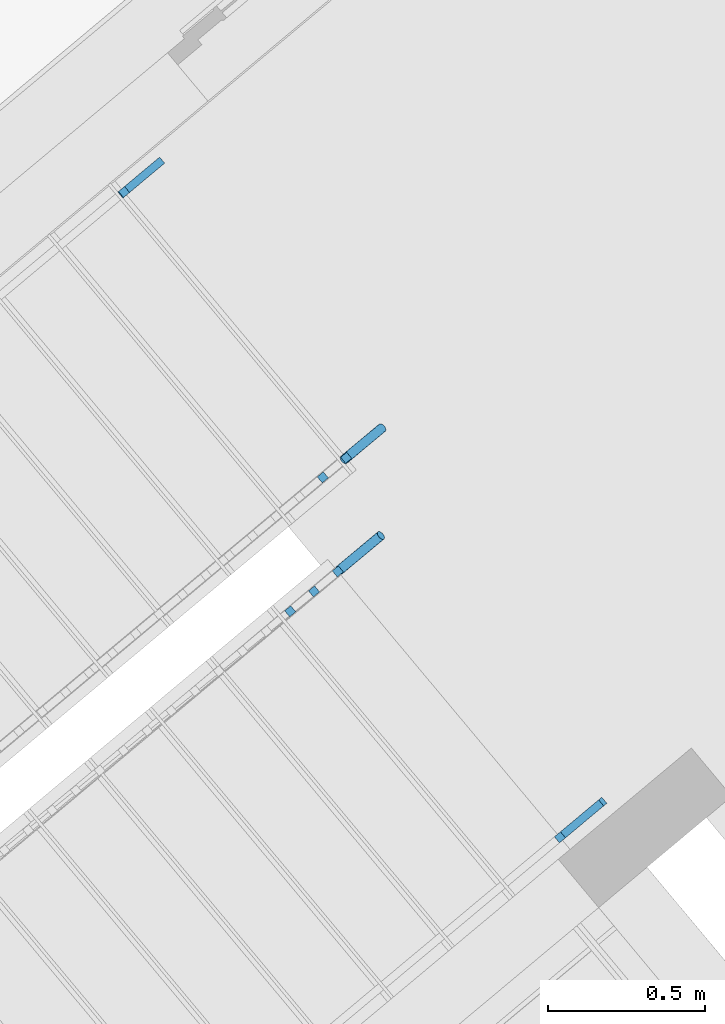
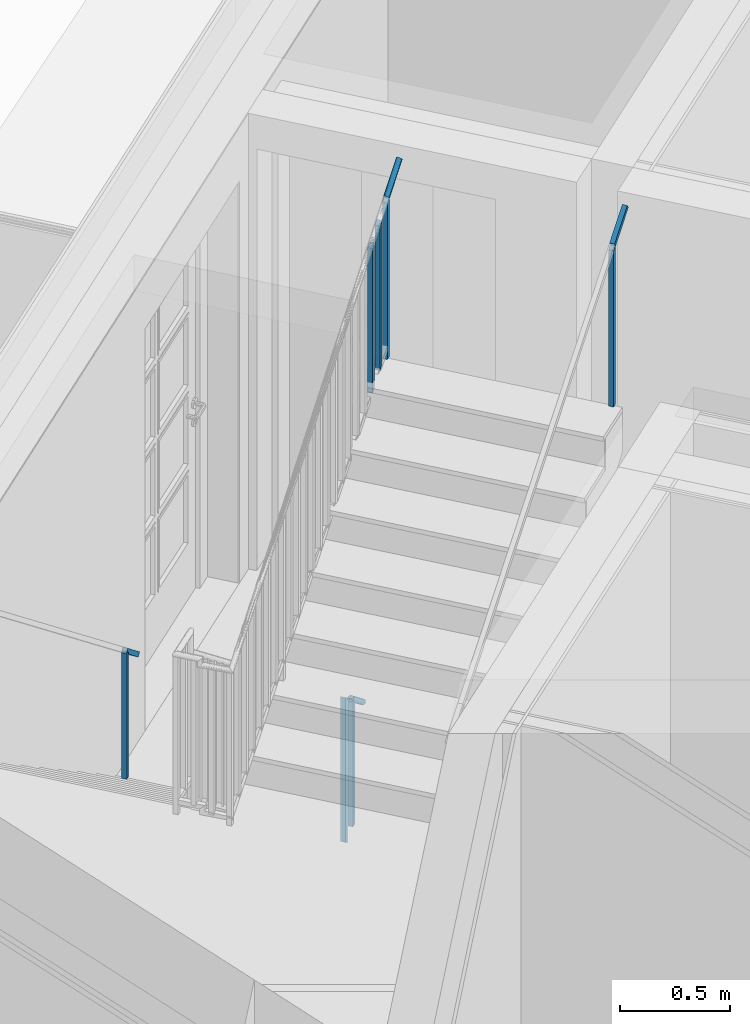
# One storey, part 56 of 67: 11 building element parts, 3 elements without a shape of their own.
"""IFC4 building model written with IfcOpenShell, lengths in metres."""

from ifc_helpers import new_model, entity, si_unit, converted_unit, derived_unit, direction, frame, origin_with_axes, place, context, subcontext, project, spatial, polygons, material, type_object, element, aggregate, save


model = new_model("IFC4")

# Units and contexts
model_context = context("Model", 3, precision=1e-05, world=origin_with_axes(), true_north=direction((0.0, 1.0)))
body_context = subcontext(model_context, "Body", "Model", "MODEL_VIEW")
ifc_project = project(units=[si_unit("LENGTHUNIT", "METRE"), si_unit("AREAUNIT", "SQUARE_METRE"), si_unit("VOLUMEUNIT", "CUBIC_METRE"), converted_unit("PLANEANGLEUNIT", "DEGREE", entity("IfcPlaneAngleMeasure", 0.0174532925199), si_unit("PLANEANGLEUNIT", "RADIAN"), dimensions=[0, 0, 0, 0, 0, 0, 0]), converted_unit("TIMEUNIT", "Year", entity("IfcTimeMeasure", 31556926.0), si_unit("TIMEUNIT", "SECOND"), dimensions=[0, 0, 1, 0, 0, 0, 0]), si_unit("MASSUNIT", "GRAM", prefix="KILO"), si_unit("THERMODYNAMICTEMPERATUREUNIT", "DEGREE_CELSIUS"), si_unit("LUMINOUSINTENSITYUNIT", "LUMEN"), si_unit("ENERGYUNIT", "JOULE", prefix="MEGA"), derived_unit("THERMALCONDUCTANCEUNIT", [(si_unit("POWERUNIT", "WATT"), 1), (si_unit("LENGTHUNIT", "METRE"), -1), (si_unit("THERMODYNAMICTEMPERATUREUNIT", "KELVIN"), -1)]), derived_unit("SPECIFICHEATCAPACITYUNIT", [(si_unit("ENERGYUNIT", "JOULE"), 1), (si_unit("MASSUNIT", "GRAM", prefix="KILO"), -1), (si_unit("THERMODYNAMICTEMPERATUREUNIT", "KELVIN"), -1)]), derived_unit("MASSDENSITYUNIT", [(si_unit("MASSUNIT", "GRAM", prefix="KILO"), 1), (si_unit("VOLUMEUNIT", "CUBIC_METRE"), -1)])], contexts=[model_context])

# Site, building, storey
site_placement = place(None, frame((-0.00153261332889, -0.00661245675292, 0.0), z_axis=(0.0, 0.0, 1.0), x_axis=(1.0, 0.0, 0.0)))
site = spatial("IfcSite", under=ifc_project, at=site_placement, Name="Site", CompositionType="ELEMENT")
building_placement = place(site_placement, origin_with_axes())
building = spatial("IfcBuilding", under=site, at=building_placement, Name="Building", CompositionType="ELEMENT")
storey_placement = place(building_placement, frame((0.0, 0.0, -0.22), z_axis=(0.0, 0.0, 1.0), x_axis=(1.0, 0.0, 0.0)))
storey = spatial("IfcBuildingStorey", under=building, at=storey_placement, Name="EG", CompositionType="ELEMENT", Elevation=-0.22)

# Railing, building element parts
railing_type = type_object("IfcRailingType", Name="Geländerart", PredefinedType="NOTDEFINED")
railing_1_placement = place(storey_placement, frame((-0.398547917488, 23.8355657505, 0.05), z_axis=(0.0, 0.0, 1.0), x_axis=(1.0, 0.0, 0.0)))
railing_1 = element("IfcRailing", 1, at=railing_1_placement, inside=storey, type_object=railing_type, Name="Geländer - 001", PredefinedType="NOTDEFINED")
ifc_material = material(Name="BEKLEIDUNG")
building_element_part_1_placement = place(railing_1_placement, origin_with_axes())
building_element_part_1 = element("IfcBuildingElementPart", 2, at=building_element_part_1_placement, material=ifc_material, Name="BEKLEIDUNG", PredefinedType="NOTDEFINED", context=body_context, shape_type="Tessellation", body=[
    polygons([(-0.0496656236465, 0.0399477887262, 0.177058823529), (-0.0336363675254, 0.0207628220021, 0.177058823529), (-0.0336363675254, 0.0207628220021, 0.889746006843), (-0.0496656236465, 0.0399477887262, 0.889746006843), (-0.0304806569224, 0.0559770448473, 0.177058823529), (-0.0144514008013, 0.0367920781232, 0.177058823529), (-0.0144514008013, 0.0367920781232, 0.870253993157), (-0.0304806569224, 0.0559770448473, 0.870253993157)], [[[1, 2, 3, 4]], [[1, 5, 6, 2]], [[2, 6, 7, 3]], [[4, 3, 7, 8]], [[5, 1, 4, 8]], [[6, 5, 8, 7]]], closed=True),
])
building_element_part_2_placement = place(railing_1_placement, origin_with_axes())
building_element_part_2 = element("IfcBuildingElementPart", 3, at=building_element_part_2_placement, material=ifc_material, Name="BEKLEIDUNG", PredefinedType="NOTDEFINED", context=body_context, shape_type="Tessellation", body=[
    polygons([(-0.0487538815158, 0.0439673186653, 0.88817063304), (-0.0473787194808, 0.0448193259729, 0.890224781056), (0.073659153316, 0.145947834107, 0.767249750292), (0.0722839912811, 0.1450958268, 0.765195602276), (-0.0498368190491, 0.0427655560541, 0.886116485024), (-0.0505946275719, 0.0412505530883, 0.884124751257), (-0.0510042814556, 0.0394683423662, 0.88225594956), (-0.0510533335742, 0.0374730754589, 0.880566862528), (-0.050740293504, 0.0353253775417, 0.879108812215), (-0.0500746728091, 0.0330905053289, 0.877926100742), (-0.0490766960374, 0.030836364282, 0.877054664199), (-0.0477766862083, 0.0286314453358, 0.876520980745), (-0.0462141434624, 0.026542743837, 0.87634126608), (-0.0444365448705, 0.0246337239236, 0.876520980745), (-0.0424979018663, 0.0229623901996, 0.877054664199), (-0.0404571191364, 0.0215795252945, 0.877926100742), (-0.0383762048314, 0.0205271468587, 0.879108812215), (-0.0363183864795, 0.0198372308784, 0.880566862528), (-0.03434618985, 0.0195307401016, 0.88225594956), (-0.0325195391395, 0.0196169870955, 0.884124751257), (-0.0308939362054, 0.0200933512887, 0.886116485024), (-0.0295187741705, 0.0209453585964, 0.88817063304), (-0.0284358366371, 0.0221471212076, 0.890224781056), (-0.0276780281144, 0.0236621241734, 0.892216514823), (-0.0272683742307, 0.0254443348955, 0.89408531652), (-0.0272193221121, 0.0274396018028, 0.895774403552), (-0.0275323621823, 0.02958729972, 0.897232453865), (-0.0281979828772, 0.0318221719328, 0.898415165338), (-0.0291959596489, 0.0340763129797, 0.899286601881), (-0.030495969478, 0.0362812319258, 0.899820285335), (-0.0320585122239, 0.0383699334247, 0.9), (-0.0338361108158, 0.0402789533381, 0.899820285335), (-0.03577475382, 0.0419502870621, 0.899286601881), (-0.0378155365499, 0.0433331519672, 0.898415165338), (-0.0398964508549, 0.044385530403, 0.897232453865), (-0.0419542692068, 0.0450754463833, 0.895774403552), (-0.0439264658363, 0.04538193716, 0.89408531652), (-0.0457531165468, 0.0452956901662, 0.892216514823), (0.0752847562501, 0.146424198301, 0.76924148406), (0.0771114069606, 0.146510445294, 0.771110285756), (0.0790836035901, 0.146203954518, 0.772799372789), (0.081141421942, 0.145514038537, 0.774257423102), (0.083222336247, 0.144461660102, 0.775440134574), (0.0852631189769, 0.143078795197, 0.776311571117), (0.0872017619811, 0.141407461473, 0.776845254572), (0.088979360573, 0.139498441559, 0.777024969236), (0.0905419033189, 0.13740974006, 0.776845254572), (0.091841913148, 0.135204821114, 0.776311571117), (0.0928398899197, 0.132950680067, 0.775440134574), (0.0935055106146, 0.130715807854, 0.774257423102), (0.0938185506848, 0.128568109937, 0.772799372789), (0.0937694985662, 0.12657284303, 0.771110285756), (0.0933598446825, 0.124790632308, 0.76924148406), (0.0926020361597, 0.123275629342, 0.767249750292), (0.0915190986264, 0.122073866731, 0.765195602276), (0.0901439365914, 0.121221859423, 0.763141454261), (0.0885183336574, 0.12074549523, 0.761149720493), (0.0866916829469, 0.120659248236, 0.759280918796), (0.0847194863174, 0.120965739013, 0.757591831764), (0.0826616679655, 0.121655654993, 0.756133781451), (0.0805807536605, 0.122708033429, 0.754951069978), (0.0785399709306, 0.124090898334, 0.754079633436), (0.0766013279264, 0.125762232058, 0.753545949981), (0.0748237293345, 0.127671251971, 0.753366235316), (0.0732611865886, 0.12975995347, 0.753545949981), (0.0719611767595, 0.131964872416, 0.754079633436), (0.0709631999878, 0.134219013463, 0.754951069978), (0.0702975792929, 0.136453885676, 0.756133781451), (0.0699845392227, 0.138601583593, 0.757591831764), (0.0700335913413, 0.140596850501, 0.759280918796), (0.070443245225, 0.142379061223, 0.761149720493), (0.0712010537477, 0.143894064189, 0.763141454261)], [[[1, 2, 3, 4]], [[1, 5, 6, 7, 8, 9, 10, 11, 12, 13, 14, 15, 16, 17, 18, 19, 20, 21, 22, 23, 24, 25, 26, 27, 28, 29, 30, 31, 32, 33, 34, 35, 36, 37, 38, 2]], [[2, 38, 39, 3]], [[4, 3, 39, 40, 41, 42, 43, 44, 45, 46, 47, 48, 49, 50, 51, 52, 53, 54, 55, 56, 57, 58, 59, 60, 61, 62, 63, 64, 65, 66, 67, 68, 69, 70, 71, 72]], [[5, 1, 4, 72]], [[6, 5, 72, 71]], [[7, 6, 71, 70]], [[8, 7, 70, 69]], [[9, 8, 69, 68]], [[10, 9, 68, 67]], [[11, 10, 67, 66]], [[12, 11, 66, 65]], [[13, 12, 65, 64]], [[14, 13, 64, 63]], [[15, 14, 63, 62]], [[16, 15, 62, 61]], [[17, 16, 61, 60]], [[18, 17, 60, 59]], [[19, 18, 59, 58]], [[20, 19, 58, 57]], [[21, 20, 57, 56]], [[22, 21, 56, 55]], [[23, 22, 55, 54]], [[24, 23, 54, 53]], [[25, 24, 53, 52]], [[26, 25, 52, 51]], [[27, 26, 51, 50]], [[28, 27, 50, 49]], [[29, 28, 49, 48]], [[30, 29, 48, 47]], [[31, 30, 47, 46]], [[32, 31, 46, 45]], [[33, 32, 45, 44]], [[34, 33, 44, 43]], [[35, 34, 43, 42]], [[36, 35, 42, 41]], [[37, 36, 41, 40]], [[38, 37, 40, 39]]], closed=True),
])
building_element_part_3_placement = place(railing_1_placement, origin_with_axes())
building_element_part_3 = element("IfcBuildingElementPart", 4, at=building_element_part_3_placement, material=ifc_material, Name="BEKLEIDUNG", PredefinedType="NOTDEFINED", context=body_context, shape_type="Tessellation", body=[
    polygons([(-0.0409350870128, -0.323945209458, 3.01), (-0.0569653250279, -0.30476106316, 3.01), (-0.0569653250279, -0.30476106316, 3.89767233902), (-0.0409350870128, -0.323945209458, 3.89767233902), (-0.0601192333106, -0.339975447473, 3.01), (-0.0761494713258, -0.320791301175, 3.01), (-0.0761494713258, -0.320791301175, 3.88232766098), (-0.0601192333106, -0.339975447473, 3.88232766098)], [[[1, 2, 3, 4]], [[1, 5, 6, 2]], [[2, 6, 7, 3]], [[4, 3, 7, 8]], [[5, 1, 4, 8]], [[6, 5, 8, 7]]], closed=True),
])
building_element_part_4_placement = place(railing_1_placement, origin_with_axes())
building_element_part_4 = element("IfcBuildingElementPart", 5, at=building_element_part_4_placement, material=ifc_material, Name="BEKLEIDUNG", PredefinedType="NOTDEFINED", context=body_context, shape_type="Tessellation", body=[
    polygons([(-0.0621391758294, -0.305826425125, 3.89721601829), (-0.0630386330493, -0.30687497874, 3.89943593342), (0.0677612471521, -0.197578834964, 4.00405784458), (0.068660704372, -0.196530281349, 4.00183792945), (-0.0609474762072, -0.305127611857, 3.89499610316), (-0.0594997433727, -0.304799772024, 3.89284363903), (-0.0578399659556, -0.304852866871, 3.89082402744), (-0.0560185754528, -0.305285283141, 3.88899863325), (-0.054090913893, -0.306083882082, 3.88742292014), (-0.0521155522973, -0.30722439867, 3.88614476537), (-0.0501525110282, -0.308672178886, 3.88520300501), (-0.0482614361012, -0.310383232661, 3.88462625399), (-0.0464997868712, -0.312305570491, 3.88443203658), (-0.0449210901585, -0.314380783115, 3.88462625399), (-0.043573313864, -0.316545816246, 3.88520300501), (-0.0424974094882, -0.318734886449, 3.88614476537), (-0.0417260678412, -0.320881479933, 3.88742292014), (-0.0412827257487, -0.322920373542, 3.88899863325), (-0.0411808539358, -0.324789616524, 3.89082402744), (-0.041423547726, -0.326432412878, 3.89284363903), (-0.0420034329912, -0.327798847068, 3.89499610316), (-0.0429028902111, -0.328847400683, 3.89721601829), (-0.0440945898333, -0.329546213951, 3.89943593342), (-0.0455423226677, -0.329874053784, 3.90158839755), (-0.0472021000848, -0.329820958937, 3.90360800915), (-0.0490234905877, -0.329388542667, 3.90543340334), (-0.0509511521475, -0.328589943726, 3.90700911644), (-0.0529265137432, -0.327449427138, 3.90828727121), (-0.0548895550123, -0.326001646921, 3.90922903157), (-0.0567806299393, -0.324290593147, 3.90980578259), (-0.0585422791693, -0.322368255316, 3.91), (-0.0601209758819, -0.320293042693, 3.90980578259), (-0.0614687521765, -0.318128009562, 3.90922903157), (-0.0625446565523, -0.315938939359, 3.90828727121), (-0.0633159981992, -0.313792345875, 3.90700911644), (-0.0637593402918, -0.311753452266, 3.90543340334), (-0.0638612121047, -0.309884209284, 3.90360800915), (-0.0636185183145, -0.30824141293, 3.90158839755), (0.0671813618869, -0.198945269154, 4.00621030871), (0.0669386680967, -0.200588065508, 4.00822992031), (0.0670405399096, -0.20245730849, 4.0100553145), (0.0674838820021, -0.204496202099, 4.0116310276), (0.0682552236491, -0.206642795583, 4.01290918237), (0.0693311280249, -0.208831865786, 4.01385094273), (0.0706789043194, -0.210996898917, 4.01442769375), (0.0722576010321, -0.213072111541, 4.01462191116), (0.0740192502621, -0.214994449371, 4.01442769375), (0.0759103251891, -0.216705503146, 4.01385094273), (0.0778733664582, -0.218153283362, 4.01290918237), (0.0798487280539, -0.21929379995, 4.0116310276), (0.0817763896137, -0.220092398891, 4.0100553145), (0.0835977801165, -0.220524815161, 4.00822992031), (0.0852575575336, -0.220577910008, 4.00621030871), (0.0867052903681, -0.220250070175, 4.00405784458), (0.0878969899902, -0.219551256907, 4.00183792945), (0.0887964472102, -0.218502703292, 3.99961801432), (0.0893763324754, -0.217136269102, 3.9974655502), (0.0896190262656, -0.215493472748, 3.9954459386), (0.0895171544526, -0.213624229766, 3.99362054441), (0.0890738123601, -0.211585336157, 3.9920448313), (0.0883024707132, -0.209438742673, 3.99076667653), (0.0872265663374, -0.20724967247, 3.98982491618), (0.0858787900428, -0.205084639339, 3.98924816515), (0.0843000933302, -0.203009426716, 3.98905394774), (0.0825384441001, -0.201087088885, 3.98924816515), (0.0806473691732, -0.199376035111, 3.98982491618), (0.0786843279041, -0.197928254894, 3.99076667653), (0.0767089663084, -0.196787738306, 3.9920448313), (0.0747813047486, -0.195989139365, 3.99362054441), (0.0729599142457, -0.195556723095, 3.9954459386), (0.0713001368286, -0.195503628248, 3.9974655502), (0.0698524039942, -0.195831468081, 3.99961801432)], [[[1, 2, 3, 4]], [[1, 5, 6, 7, 8, 9, 10, 11, 12, 13, 14, 15, 16, 17, 18, 19, 20, 21, 22, 23, 24, 25, 26, 27, 28, 29, 30, 31, 32, 33, 34, 35, 36, 37, 38, 2]], [[2, 38, 39, 3]], [[4, 3, 39, 40, 41, 42, 43, 44, 45, 46, 47, 48, 49, 50, 51, 52, 53, 54, 55, 56, 57, 58, 59, 60, 61, 62, 63, 64, 65, 66, 67, 68, 69, 70, 71, 72]], [[5, 1, 4, 72]], [[6, 5, 72, 71]], [[7, 6, 71, 70]], [[8, 7, 70, 69]], [[9, 8, 69, 68]], [[10, 9, 68, 67]], [[11, 10, 67, 66]], [[12, 11, 66, 65]], [[13, 12, 65, 64]], [[14, 13, 64, 63]], [[15, 14, 63, 62]], [[16, 15, 62, 61]], [[17, 16, 61, 60]], [[18, 17, 60, 59]], [[19, 18, 59, 58]], [[20, 19, 58, 57]], [[21, 20, 57, 56]], [[22, 21, 56, 55]], [[23, 22, 55, 54]], [[24, 23, 54, 53]], [[25, 24, 53, 52]], [[26, 25, 52, 51]], [[27, 26, 51, 50]], [[28, 27, 50, 49]], [[29, 28, 49, 48]], [[30, 29, 48, 47]], [[31, 30, 47, 46]], [[32, 31, 46, 45]], [[33, 32, 45, 44]], [[34, 33, 44, 43]], [[35, 34, 43, 42]], [[36, 35, 42, 41]], [[37, 36, 41, 40]], [[38, 37, 40, 39]]], closed=True),
])
building_element_part_5_placement = place(railing_1_placement, origin_with_axes())
building_element_part_5 = element("IfcBuildingElementPart", 6, at=building_element_part_5_placement, material=ifc_material, Name="BEKLEIDUNG", PredefinedType="NOTDEFINED", context=body_context, shape_type="Tessellation", body=[
    polygons([(-0.123876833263, -0.0220565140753, 0.155144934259), (-0.107847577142, -0.0412414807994, 0.155144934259), (-0.107847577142, -0.0412414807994, 0.962644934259), (-0.123876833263, -0.0220565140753, 0.962644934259), (-0.104691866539, -0.00602725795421, 0.135652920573), (-0.0886626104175, -0.0252122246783, 0.135652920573), (-0.0886626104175, -0.0252122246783, 0.943152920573), (-0.104691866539, -0.00602725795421, 0.943152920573)], [[[1, 2, 3, 4]], [[1, 5, 6, 2]], [[2, 6, 7, 3]], [[4, 3, 7, 8]], [[5, 1, 4, 8]], [[6, 5, 8, 7]]], closed=True),
])
building_element_part_6_placement = place(railing_1_placement, origin_with_axes())
building_element_part_6 = element("IfcBuildingElementPart", 7, at=building_element_part_6_placement, material=ifc_material, Name="BEKLEIDUNG", PredefinedType="NOTDEFINED", context=body_context, shape_type="Tessellation", body=[
    polygons([(-0.19216360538, -0.450311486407, 2.96671032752), (-0.208193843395, -0.431127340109, 2.96671032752), (-0.208193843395, -0.431127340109, 3.77421032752), (-0.19216360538, -0.450311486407, 3.77421032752), (-0.211347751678, -0.466341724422, 2.95136564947), (-0.227377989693, -0.447157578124, 2.95136564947), (-0.227377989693, -0.447157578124, 3.75886564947), (-0.211347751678, -0.466341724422, 3.75886564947)], [[[1, 2, 3, 4]], [[1, 5, 6, 2]], [[2, 6, 7, 3]], [[4, 3, 7, 8]], [[5, 1, 4, 8]], [[6, 5, 8, 7]]], closed=True),
])
building_element_part_7_placement = place(railing_1_placement, origin_with_axes())
building_element_part_7 = element("IfcBuildingElementPart", 8, at=building_element_part_7_placement, material=ifc_material, Name="BEKLEIDUNG", PredefinedType="NOTDEFINED", context=body_context, shape_type="Tessellation", body=[
    polygons([(-0.116549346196, -0.387128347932, 3.02719133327), (-0.132579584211, -0.367944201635, 3.02719133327), (-0.132579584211, -0.367944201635, 3.83469133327), (-0.116549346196, -0.387128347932, 3.83469133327), (-0.135733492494, -0.403158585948, 3.01184665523), (-0.151763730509, -0.38397443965, 3.01184665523), (-0.151763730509, -0.38397443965, 3.81934665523), (-0.135733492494, -0.403158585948, 3.81934665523)], [[[1, 2, 3, 4]], [[1, 5, 6, 2]], [[2, 6, 7, 3]], [[4, 3, 7, 8]], [[5, 1, 4, 8]], [[6, 5, 8, 7]]], closed=True),
])
aggregate(railing_1, [building_element_part_1, building_element_part_2, building_element_part_3, building_element_part_4, building_element_part_5, building_element_part_6, building_element_part_7])

railing_2_placement = place(storey_placement, frame((-1.26480795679, 21.3396367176, 1.82058823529), z_axis=(0.0, 0.0, 1.0), x_axis=(1.0, 0.0, 0.0)))
railing_2 = element("IfcRailing", 9, at=railing_2_placement, inside=storey, type_object=railing_type, Name="Geländer - 002", PredefinedType="NOTDEFINED")
building_element_part_8_placement = place(railing_2_placement, origin_with_axes())
building_element_part_8 = element("IfcBuildingElementPart", 10, at=building_element_part_8_placement, material=ifc_material, Name="BEKLEIDUNG", PredefinedType="NOTDEFINED", context=body_context, shape_type="Tessellation", body=[
    polygons([(1.53065542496, 1.32788138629, 1.23941176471), (1.51462518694, 1.34706553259, 1.23941176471), (1.51462518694, 1.34706553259, 2.12710606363), (1.53065542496, 1.32788138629, 2.12710606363), (1.51147127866, 1.31185114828, 1.23941176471), (1.49544104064, 1.33103529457, 1.23941176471), (1.49544104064, 1.33103529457, 2.11171746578), (1.51147127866, 1.31185114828, 2.11171746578)], [[[1, 2, 3, 4]], [[1, 5, 6, 2]], [[2, 6, 7, 3]], [[4, 3, 7, 8]], [[5, 1, 4, 8]], [[6, 5, 8, 7]]], closed=True),
])
building_element_part_9_placement = place(railing_2_placement, origin_with_axes())
building_element_part_9 = element("IfcBuildingElementPart", 11, at=building_element_part_9_placement, material=ifc_material, Name="BEKLEIDUNG", PredefinedType="NOTDEFINED", context=body_context, shape_type="Tessellation", body=[
    polygons([(1.52106335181, 1.31986626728, 2.13941176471), (1.53111960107, 1.32826925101, 2.11812182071), (1.66181700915, 1.43747976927, 2.22296098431), (1.65176075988, 1.42907678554, 2.24425092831), (1.50503311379, 1.33905041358, 2.13941176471), (1.51508936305, 1.34745339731, 2.11812182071), (1.64578677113, 1.45666391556, 2.22296098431), (1.63573052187, 1.44826093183, 2.24425092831)], [[[1, 2, 3, 4]], [[1, 5, 6, 2]], [[2, 6, 7, 3]], [[4, 3, 7, 8]], [[5, 1, 4, 8]], [[6, 5, 8, 7]]], closed=True),
])
aggregate(railing_2, [building_element_part_8, building_element_part_9])

railing_3_placement = place(storey_placement, frame((-1.16795221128, 24.7564441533, 0.05), z_axis=(0.0, 0.0, 1.0), x_axis=(1.0, 0.0, 0.0)))
railing_3 = element("IfcRailing", 12, at=railing_3_placement, inside=storey, type_object=railing_type, Name="Geländer - 001", PredefinedType="NOTDEFINED")
building_element_part_10_placement = place(railing_3_placement, origin_with_axes())
building_element_part_10 = element("IfcBuildingElementPart", 13, at=building_element_part_10_placement, material=ifc_material, Name="BEKLEIDUNG", PredefinedType="NOTDEFINED", context=body_context, shape_type="Tessellation", body=[
    polygons([(0.0144514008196, -0.0367920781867, 0.177058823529), (0.0304806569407, -0.0559770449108, 0.177058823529), (0.0304806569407, -0.0559770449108, 0.88977053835), (0.0144514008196, -0.0367920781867, 0.88977053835), (0.0336363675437, -0.0207628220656, 0.177058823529), (0.0496656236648, -0.0399477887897, 0.177058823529), (0.0496656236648, -0.0399477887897, 0.87022946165), (0.0336363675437, -0.0207628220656, 0.87022946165)], [[[1, 2, 3, 4]], [[1, 5, 6, 2]], [[2, 6, 7, 3]], [[4, 3, 7, 8]], [[5, 1, 4, 8]], [[6, 5, 8, 7]]], closed=True),
])
building_element_part_11_placement = place(railing_3_placement, origin_with_axes())
building_element_part_11 = element("IfcBuildingElementPart", 14, at=building_element_part_11_placement, material=ifc_material, Name="BEKLEIDUNG", PredefinedType="NOTDEFINED", context=body_context, shape_type="Tessellation", body=[
    polygons([(0.0400731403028, -0.0479624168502, 0.9), (0.0282583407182, -0.0578338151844, 0.880303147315), (0.149181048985, 0.0431984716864, 0.757135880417), (0.16099584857, 0.0530698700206, 0.776832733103), (0.0240438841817, -0.0287774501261, 0.9), (0.0122290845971, -0.0386488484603, 0.880303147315), (0.133151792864, 0.0623834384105, 0.757135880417), (0.144966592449, 0.0722548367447, 0.776832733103)], [[[1, 2, 3, 4]], [[1, 5, 6, 2]], [[2, 6, 7, 3]], [[4, 3, 7, 8]], [[5, 1, 4, 8]], [[6, 5, 8, 7]]], closed=True),
])
aggregate(railing_3, [building_element_part_10, building_element_part_11])

save(model, "model.ifc")
